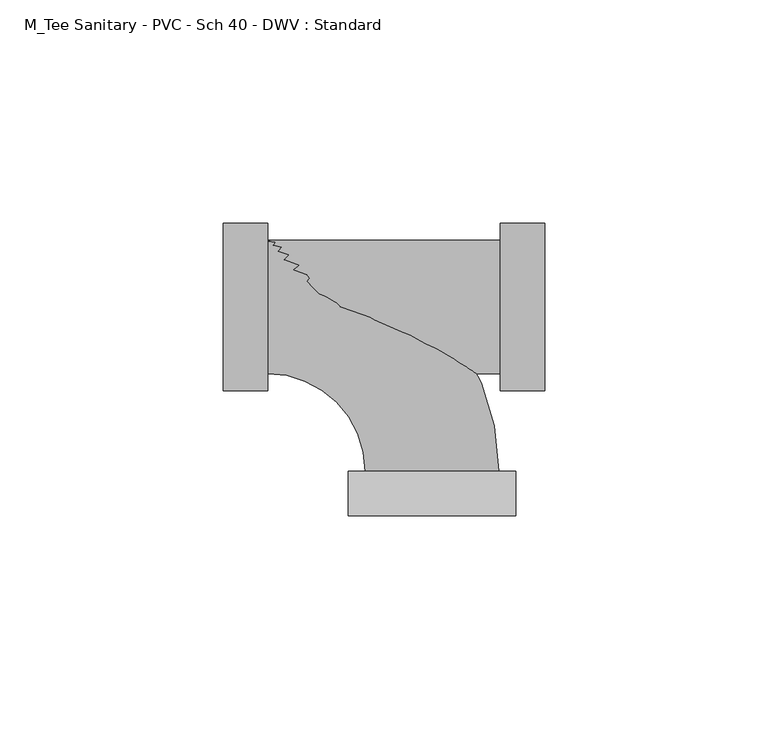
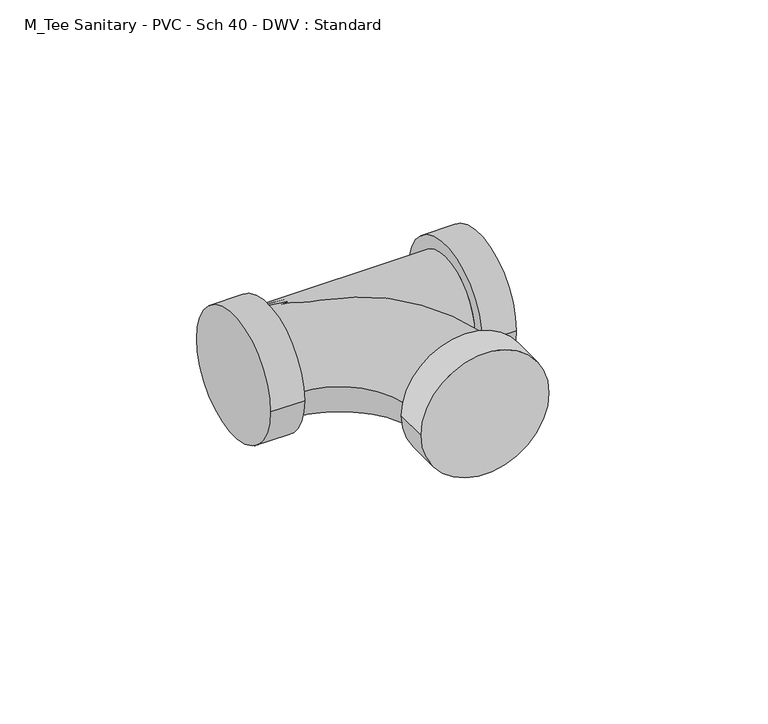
"""IFC4 building model written with IfcOpenShell, lengths in millimetres: pipe fitting geometry, M_Tee Sanitary - PVC - Sch 40 - DWV : Standard."""

from ifc_helpers import new_model, si_unit, point, frame, origin, place, context, project, spatial, circle_curve, ellipse_curve, trimmed, source, transform, mapped, element, save
from ifc_brep_helpers import plane_surface, cylinder_surface, revolved_surface, advanced_brep


def m_tee_sanitary_pvc_sch_40_dwv_standard_52472e72(model_context):
    return source(origin(), model_context, "Body", "AdvancedBrep", [
        advanced_brep(
        [(-36.8140625, -14.9640625, 0.0), (-36.8140625, 14.9640625, 0.0), (-14.9640625, -36.8140625, 0.0), (14.9640625, -36.8140625, 0.0), (18.7871094, -46.8140625, 0.0), (-18.7871094, -46.8140625, 0.0), (18.7871094, -36.8140625, 0.0), (-18.7871094, -36.8140625, 0.0)],
        [
            (0, 1, circle_curve(frame((-36.8140625, 0.0, 0.0), z_axis=(-1.0, 0.0, 0.0), x_axis=(0.0, 1.0, 0.0)), 14.9640625)),
            (1, 0, circle_curve(frame((-36.8140625, 0.0, 0.0), z_axis=(-1.0, 0.0, 0.0), x_axis=(0.0, 1.0, 0.0)), 14.9640625)),
            (0, 2, circle_curve(frame((-36.8140625, -36.8140625, 0.0), z_axis=(0.0, 0.0, -1.0), x_axis=(0.0, 1.0, 0.0)), 21.85)),
            (2, 3, circle_curve(frame((0.0, -36.8140625, 0.0), z_axis=(-1.2823688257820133e-12, 1.0, 0.0), x_axis=(1.0, 1.2823688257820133e-12, 0.0)), 14.9640625)),
            (3, 1, circle_curve(frame((-36.8140625, -36.8140625, 0.0), z_axis=(0.0, 0.0, 1.0), x_axis=(0.0, 1.0, 0.0)), 51.778125)),
            (3, 2, circle_curve(frame((0.0, -36.8140625, 0.0), z_axis=(-1.0287938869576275e-12, 1.0, 0.0), x_axis=(1.0, 1.0287938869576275e-12, 0.0)), 14.9640625)),
            (4, 5, circle_curve(frame((0.0, -46.8140625, 0.0), z_axis=(0.0, -1.0, 0.0), x_axis=(-1.0, 0.0, 0.0)), 18.7871094)),
            (5, 4, circle_curve(frame((0.0, -46.8140625, 0.0), z_axis=(0.0, -1.0, 0.0), x_axis=(-1.0, 0.0, 0.0)), 18.7871094)),
            (6, 7, circle_curve(frame((0.0, -36.8140625, 0.0), z_axis=(0.0, 1.0, 0.0), x_axis=(-1.0, 0.0, 0.0)), 18.7871094)),
            (7, 6, circle_curve(frame((0.0, -36.8140625, 0.0), z_axis=(0.0, 1.0, 0.0), x_axis=(-1.0, 0.0, 0.0)), 18.7871094)),
            (4, 6),
            (7, 5),
        ],
        [
            plane_surface(frame((-36.8140625, 0.0, 0.0), z_axis=(-1.0, 0.0, 0.0), x_axis=(0.0, 0.0, 1.0))),
            revolved_surface(trimmed(ellipse_curve(frame((-36.8140625, 0.0, 0.0), z_axis=(-1.0, 0.0, 0.0), x_axis=(0.0, 1.0, 0.0)), 14.9640625, 14.9640625), [point((-36.8140625, -14.9640625, 0.0))], [point((-36.8140625, 14.9640625, 0.0))], True, "CARTESIAN"), (-36.8140625, -36.8140625, 0.0), (0.0, 0.0, -1.0)),
            revolved_surface(trimmed(ellipse_curve(frame((-36.8140625, 0.0, 0.0), z_axis=(-1.0, 0.0, 0.0), x_axis=(0.0, 1.0, 0.0)), 14.9640625, 14.9640625), [point((-36.8140625, 14.9640625, 0.0))], [point((-36.8140625, -14.9640625, 0.0))], True, "CARTESIAN"), (-36.8140625, -36.8140625, 0.0), (0.0, 0.0, -1.0)),
            plane_surface(frame((0.0, -46.8140625, 0.0), z_axis=(0.0, -1.0, 0.0), x_axis=(0.0, 0.0, 1.0))),
            plane_surface(frame((0.0, -36.8140625, 0.0), z_axis=(0.0, 1.0, 0.0), x_axis=(0.0, 0.0, 1.0))),
            cylinder_surface(frame((0.0, -46.8140625, 0.0), z_axis=(0.0, -1.0, 0.0), x_axis=(-1.0, 0.0, 0.0)), 18.7871094),
        ],
        [
            (0, [[1, 2]]),
            (1, [[-1, 3, 4, 5]]),
            (2, [[-2, -5, 6, -3]]),
            (3, [[7, 8]]),
            (4, [[9, 10], [-4, -6]]),
            (5, [[-7, 11, -10, 12]]),
            (5, [[-8, -12, -9, -11]]),
        ],
    ),
        advanced_brep(
        [(-36.8140625, -14.9640625, 0.0), (15.365625, -14.9640625, 0.0), (15.365625, 14.9640625, 0.0), (-36.8140625, 14.9640625, 0.0), (15.365625, -18.7871094, 0.0), (15.365625, 18.7871094, 0.0), (25.365625, -18.7871094, 0.0), (25.365625, 18.7871094, 0.0), (-46.8140625, -18.7871094, 0.0), (-46.8140625, 18.7871094, 0.0), (-36.8140625, -18.7871094, 0.0), (-36.8140625, 18.7871094, 0.0)],
        [
            (0, 1),
            (1, 2, circle_curve(frame((15.365625, 0.0, 0.0), z_axis=(-1.0, 0.0, 0.0), x_axis=(0.0, 1.0, 0.0)), 14.9640625)),
            (2, 3),
            (3, 0, circle_curve(frame((-36.8140625, 0.0, 0.0), z_axis=(1.0, 0.0, 0.0), x_axis=(0.0, 1.0, 0.0)), 14.9640625)),
            (0, 3, circle_curve(frame((-36.8140625, 0.0, 0.0), z_axis=(1.0, 0.0, 0.0), x_axis=(0.0, 1.0, 0.0)), 14.9640625)),
            (2, 1, circle_curve(frame((15.365625, 0.0, 0.0), z_axis=(-1.0, 0.0, 0.0), x_axis=(0.0, 1.0, 0.0)), 14.9640625)),
            (4, 5, circle_curve(frame((15.365625, 0.0, 0.0), z_axis=(-1.0, 0.0, 0.0), x_axis=(0.0, 1.0, 0.0)), 18.7871094)),
            (5, 4, circle_curve(frame((15.365625, 0.0, 0.0), z_axis=(-1.0, 0.0, 0.0), x_axis=(0.0, 1.0, 0.0)), 18.7871094)),
            (6, 7, circle_curve(frame((25.365625, 0.0, 0.0), z_axis=(1.0, 0.0, 0.0), x_axis=(0.0, 1.0, 0.0)), 18.7871094)),
            (7, 6, circle_curve(frame((25.365625, 0.0, 0.0), z_axis=(1.0, 0.0, 0.0), x_axis=(0.0, 1.0, 0.0)), 18.7871094)),
            (4, 6),
            (7, 5),
            (8, 9, circle_curve(frame((-46.8140625, 0.0, 0.0), z_axis=(-1.0, 0.0, 0.0), x_axis=(0.0, 1.0, 0.0)), 18.7871094)),
            (9, 8, circle_curve(frame((-46.8140625, 0.0, 0.0), z_axis=(-1.0, 0.0, 0.0), x_axis=(0.0, 1.0, 0.0)), 18.7871094)),
            (10, 11, circle_curve(frame((-36.8140625, 0.0, 0.0), z_axis=(1.0, 0.0, 0.0), x_axis=(0.0, 1.0, 0.0)), 18.7871094)),
            (11, 10, circle_curve(frame((-36.8140625, 0.0, 0.0), z_axis=(1.0, 0.0, 0.0), x_axis=(0.0, 1.0, 0.0)), 18.7871094)),
            (8, 10),
            (11, 9),
        ],
        [
            cylinder_surface(frame((-36.8140625, 0.0, 0.0), z_axis=(-1.0, 0.0, 0.0), x_axis=(0.0, 1.0, 0.0)), 14.9640625),
            plane_surface(frame((15.365625, 0.0, 0.0), z_axis=(-1.0, 0.0, 0.0), x_axis=(0.0, 0.0, 1.0))),
            plane_surface(frame((25.365625, 0.0, 0.0), z_axis=(1.0, 0.0, 0.0), x_axis=(0.0, 0.0, 1.0))),
            cylinder_surface(frame((15.365625, 0.0, 0.0), z_axis=(-1.0, 0.0, 0.0), x_axis=(0.0, 1.0, 0.0)), 18.7871094),
            plane_surface(frame((-46.8140625, 0.0, 0.0), z_axis=(-1.0, 0.0, 0.0), x_axis=(0.0, 0.0, 1.0))),
            plane_surface(frame((-36.8140625, 0.0, 0.0), z_axis=(1.0, 0.0, 0.0), x_axis=(0.0, 0.0, 1.0))),
            cylinder_surface(frame((-46.8140625, 0.0, 0.0), z_axis=(-1.0, 0.0, 0.0), x_axis=(0.0, 1.0, 0.0)), 18.7871094),
        ],
        [
            (0, [[1, 2, 3, 4]]),
            (0, [[-1, 5, -3, 6]]),
            (1, [[7, 8], [-2, -6]]),
            (2, [[9, 10]]),
            (3, [[-7, 11, -10, 12]]),
            (3, [[-8, -12, -9, -11]]),
            (4, [[13, 14]]),
            (5, [[15, 16], [-4, -5]]),
            (6, [[-13, 17, -16, 18]]),
            (6, [[-14, -18, -15, -17]]),
        ],
    ),
    ])


if __name__ == "__main__":
    model = new_model("IFC4")
    model_context = context("Model", 3, world=origin())
    ifc_project = project(units=[si_unit("LENGTHUNIT", "METRE", prefix="MILLI")], contexts=[model_context])
    site = spatial("IfcSite", under=ifc_project)
    building = spatial("IfcBuilding", under=site)
    placement = place(None, origin())
    m_tee_sanitary_pvc_sch_40_dwv_standard_shape = m_tee_sanitary_pvc_sch_40_dwv_standard_52472e72(model_context)
    element("IfcPipeFitting", 1, ObjectType="M_Tee Sanitary - PVC - Sch 40 - DWV : Standard", at=placement, inside=building, context=model_context, shape_type="MappedRepresentation", body=[
        mapped(m_tee_sanitary_pvc_sch_40_dwv_standard_shape, transform((0.0, 0.0, 0.0), x_axis=(1.0, 0.0, 0.0), y_axis=(0.0, 1.0, 0.0), z_axis=(0.0, 0.0, 1.0))),
    ])
    save(model, "model.ifc")
